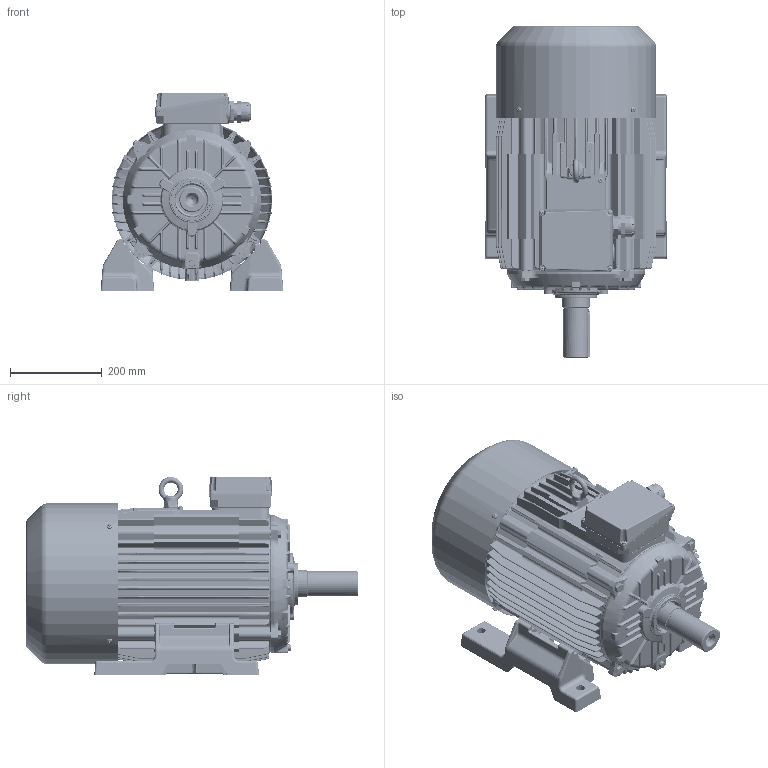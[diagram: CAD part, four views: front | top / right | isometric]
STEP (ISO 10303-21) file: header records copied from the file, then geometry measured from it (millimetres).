
FILE_DESCRIPTION(/* description */ ('Unknown'),/* implementation_level */ '2;1');
FILE_NAME(/* name */ 'S-128-02-2021',/* time_stamp */ '2021-06-28T13:29:07+02:00',/* author */ ('Unknown'),/* organization */ ('Unknown'),/* preprocessor_version */ 'ST-DEVELOPER v16.7',/* originating_system */ 'DEX',/* authorisation */ $);
FILE_SCHEMA (('AUTOMOTIVE_DESIGN {1 0 10303 214 3 1 1}'));
Length unit declared in the file: millimetre
Products named in the file (42): S-128-02-2021; waｳ do s-128; Bearing_DIN_625_1_1989_6311_v12.00; kad³ub_zest_oa_0; kad_obr_oa_1; 7195-002-02_oa_2; 7195-002-02_odb3_oa_3; Screw_DIN_912_M12x45_v14.00; Washer_DIN_127_B_12_v14.00; Washer_DIN_125_1_A_13_v12.00; Washer_DIN_127_B_12_v14.00_odb1; Œruby z uchem 82472_M12; 6115-002-03; PLg-69-52_10; AB 16x10x100; Screw_DIN_EN_24017_M12x40_v12.00; zestawienie skrzynki 160,180 1xM40 + zaslepka; RDg-59-12; Screw_DIN_EN_ISO_7045_M6x16_H_v12.00; M6; Washer_DIN_EN_ISO_7092_2000_6.0_v12.00; Washer_DIN_127_B_6_v14.00; Screw_DIN_EN_ISO_7045_M6x14_H_v12.00; QDg-53-05_1 z uszczelk¹; QDg-53-05_1; SDg-53-03_2 Sg 160-180; Screw_DIN_EN_ISO_7045_M5x20_H_v12.00; D³awik M40; Uszczelka M40; Nakrêtka M40; SDh-19-56_6; QDg-53-29_1; A0 60x85x10; Screw_DIN_EN_ISO_7045_M6x10_H_v12.00; PVg-69-06_16; SNG-49-38; RVg-69-243_2
Assembly tree (63 placements, depth 4):
  S-128-02-2021
    waｳ do s-128
    Bearing_DIN_625_1_1989_6311_v12.00  x2
    kad³ub_zest_oa_0
      kad_obr_oa_1
      7195-002-02_oa_2
      7195-002-02_odb3_oa_3
      Screw_DIN_912_M12x45_v14.00  x4
      Washer_DIN_127_B_12_v14.00  x2
      Washer_DIN_125_1_A_13_v12.00  x4
      Washer_DIN_127_B_12_v14.00_odb1  x2
    Œruby z uchem 82472_M12
    6115-002-03
    PLg-69-52_10
    AB 16x10x100
    Screw_DIN_EN_24017_M12x40_v12.00  x4
    zestawienie skrzynki 160,180 1xM40 + zaslepka
      RDg-59-12
      Screw_DIN_EN_ISO_7045_M6x16_H_v12.00  x3
      M6
        Washer_DIN_EN_ISO_7092_2000_6.0_v12.00  x2
        Washer_DIN_127_B_6_v14.00
        Screw_DIN_EN_ISO_7045_M6x14_H_v12.00
      QDg-53-05_1 z uszczelk¹
        QDg-53-05_1
        SDg-53-03_2 Sg 160-180
      Screw_DIN_EN_ISO_7045_M5x20_H_v12.00  x4
      D³awik M40
        Uszczelka M40
        D³awik M40
        Nakrêtka M40
      SDh-19-56_6
      QDg-53-29_1
    A0 60x85x10
    Screw_DIN_EN_ISO_7045_M6x10_H_v12.00  x4
    PVg-69-06_16
    M6
      Washer_DIN_EN_ISO_7092_2000_6.0_v12.00  x2
      Washer_DIN_127_B_6_v14.00
      Screw_DIN_EN_ISO_7045_M6x14_H_v12.00
    SNG-49-38
    RVg-69-243_2
Bounding box: 398.63 x 723 x 433.21 mm (x, y, z)
Volume: 12959337.5 mm3; surface area: 3286007.3 mm2
Topology: 77 solids, 95 shells, 10755 faces, 27767 edges, 16996 vertices
Faces by surface type: cylinder 3729, plane 3608, bspline 2365, torus 591, cone 256, sphere 206
Full cylindrical faces by diameter (mm): 3 x10, 4 x1, 4.2 x4, 4.917 x5, 5 x11, 5.3 x4, 5.5 x4, 6 x9, 6.4 x8, 6.5 x1, 6.647 x1, 6.8 x1, 7 x2, 8 x1, 9 x1, 9.4 x1, 9.5 x4, 9.853 x8, 10 x4, 10.2 x22, 11 x4, 12 x26, 13 x4, 13.5 x8, 15 x4, 16 x1, 16.63 x4, 17.5 x2, 18 x4, 19 x4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
Entity records: 452805 total; most frequent: CARTESIAN_POINT 170761, ORIENTED_EDGE 52036, DIRECTION 46525, EDGE_CURVE 26018, AXIS2_PLACEMENT_3D 17493, VERTEX_POINT 16318, FACE_BOUND 11822, EDGE_LOOP 11790
